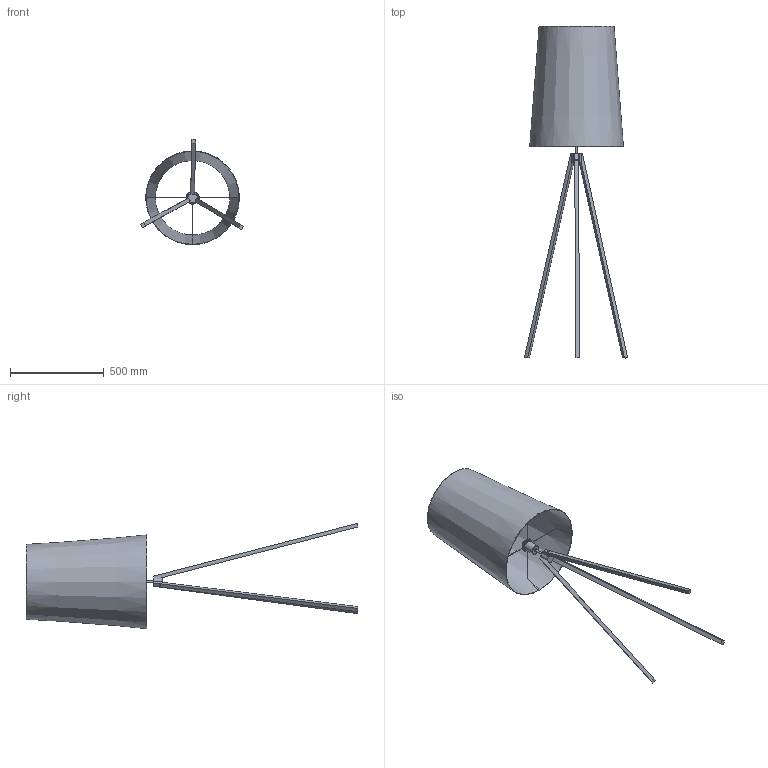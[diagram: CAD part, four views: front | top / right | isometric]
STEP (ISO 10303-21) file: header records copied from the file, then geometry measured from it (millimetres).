
FILE_DESCRIPTION(/* description */ (''),/* implementation_level */ '2;1');
FILE_NAME(/* name */ 'C:/Users/kubaw/OneDrive/Pulpit/Nowy folder/5046_WALZ/5046_WALZ v6.step',/* time_stamp */ '2021-03-13T09:50:32+01:00',/* author */ (''),/* organization */ (''),/* preprocessor_version */ 'ST-DEVELOPER v18.1',/* originating_system */ 'Autodesk Translation Framework v9.10.0.1330',/* authorisation */ '');
FILE_SCHEMA (('AUTOMOTIVE_DESIGN { 1 0 10303 214 3 1 1 }'));
Length unit declared in the file: millimetre
Products named in the file (4): 5046_WALZ; GWINT_WALZ; ABAŻUR_WALZ; ŚRUBA_WALZ
Assembly tree (5 placements, depth 2):
  5046_WALZ
    GWINT_WALZ
    ŚRUBA_WALZ  x3
    ABAŻUR_WALZ
Bounding box: 550.29 x 1770 x 561.94 mm (x, y, z)
Volume: 2444451.7 mm3; surface area: 2150971.7 mm2
Topology: 29 solids, 29 shells, 223 faces, 470 edges, 304 vertices
Faces by surface type: plane 127, cylinder 73, sphere 10, torus 8, bspline 3, cone 2
Full cylindrical faces by diameter (mm): 2 x8, 7.369 x3, 9 x2, 15 x1, 32 x1, 36 x1, 42 x1, 50 x2, 60 x1, 60.5 x1, 62 x1, 70 x1, 397 x1
Entity records: 5110 total; most frequent: CARTESIAN_POINT 1107, DIRECTION 843, ORIENTED_EDGE 724, EDGE_CURVE 362, AXIS2_PLACEMENT_3D 327, VERTEX_POINT 232, EDGE_LOOP 190, LINE 189
